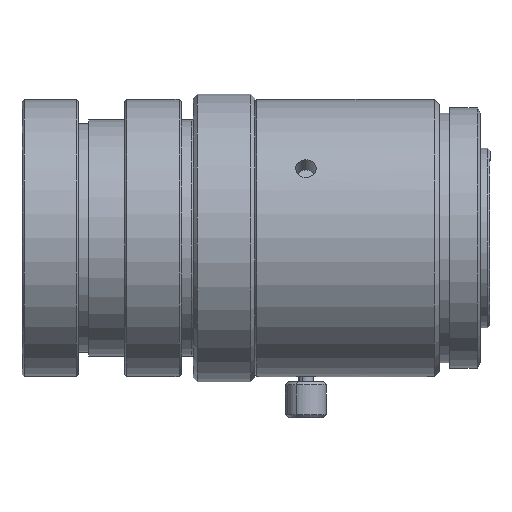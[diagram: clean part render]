
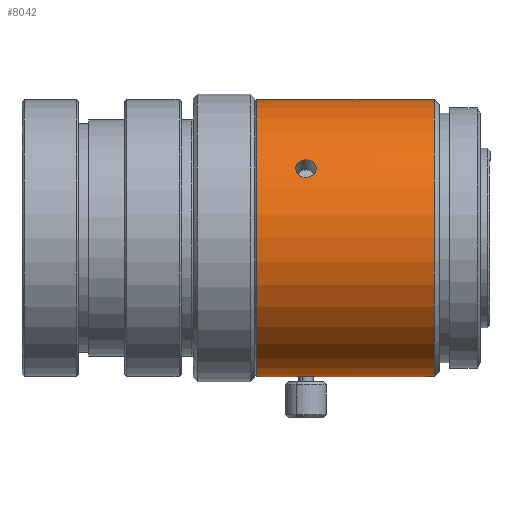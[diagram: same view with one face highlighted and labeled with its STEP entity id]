
A CAD part, top view. The second image highlights one B-rep face of the part: STEP entity #8042.
In plain terms, the highlighted cylindrical face has radius 13.5 mm (diameter 27 mm), a partial arc.
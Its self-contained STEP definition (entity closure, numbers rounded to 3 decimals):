
#186 = ORIENTED_EDGE ( 'NONE', *, *, #940, .F. ) ;
#220 = CARTESIAN_POINT ( 'NONE',  ( -30.788, 7.576, 11.174 ) ) ;
#412 = CARTESIAN_POINT ( 'NONE',  ( -18.026, 13.5, 0. ) ) ;
#436 = ORIENTED_EDGE ( 'NONE', *, *, #3309, .F. ) ;
#462 = FACE_OUTER_BOUND ( 'NONE', #1527, .T. ) ;
#520 = DIRECTION ( 'NONE',  ( 0., -1., 0. ) ) ;
#662 = EDGE_CURVE ( 'NONE', #2738, #859, #8899, .T. ) ;
#665 = ORIENTED_EDGE ( 'NONE', *, *, #9055, .T. ) ;
#757 = CARTESIAN_POINT ( 'NONE',  ( -31.526, 6.637, 11.757 ) ) ;
#810 = DIRECTION ( 'NONE',  ( 0., -1., 0. ) ) ;
#821 = DIRECTION ( 'NONE',  ( -1., 0., 0. ) ) ;
#859 = VERTEX_POINT ( 'NONE', #3760 ) ;
#864 = CARTESIAN_POINT ( 'NONE',  ( -30.657, 7.597, 11.159 ) ) ;
#940 = EDGE_CURVE ( 'NONE', #6323, #6672, #9807, .T. ) ;
#964 = DIRECTION ( 'NONE',  ( -1., 0., 0. ) ) ;
#1047 = EDGE_LOOP ( 'NONE', ( #665, #4319 ) ) ;
#1113 = CARTESIAN_POINT ( 'NONE',  ( -29.526, 6.865, 11.625 ) ) ;
#1512 = CARTESIAN_POINT ( 'NONE',  ( -31.4, -13.491, 0.503 ) ) ;
#1527 = EDGE_LOOP ( 'NONE', ( #9623, #6076, #1922, #436, #7463, #186 ) ) ;
#1573 = CARTESIAN_POINT ( 'NONE',  ( -49.693, 13.5, 0. ) ) ;
#1607 = CARTESIAN_POINT ( 'NONE',  ( -29.526, -13.5, 0.264 ) ) ;
#1654 = CARTESIAN_POINT ( 'NONE',  ( -31.327, 7.275, 11.373 ) ) ;
#1708 = CARTESIAN_POINT ( 'NONE',  ( -49.693, -13.5, 0. ) ) ;
#1800 = VECTOR ( 'NONE', #964, 1000. ) ;
#1802 = CARTESIAN_POINT ( 'NONE',  ( -30.023, 7.493, 11.23 ) ) ;
#1855 = CARTESIAN_POINT ( 'NONE',  ( -30.264, 7.576, 11.174 ) ) ;
#1922 = ORIENTED_EDGE ( 'NONE', *, *, #662, .F. ) ;
#1923 = VERTEX_POINT ( 'NONE', #3629 ) ;
#2114 = EDGE_CURVE ( 'NONE', #1923, #6805, #8637, .T. ) ;
#2343 = CARTESIAN_POINT ( 'NONE',  ( -31.325, 6.211, 11.987 ) ) ;
#2352 = CARTESIAN_POINT ( 'NONE',  ( -30.659, -13.463, 1. ) ) ;
#2362 = CARTESIAN_POINT ( 'NONE',  ( -30.526, 5.865, 12.159 ) ) ;
#2445 = CARTESIAN_POINT ( 'NONE',  ( -31.5, 6.522, 11.821 ) ) ;
#2494 = CARTESIAN_POINT ( 'NONE',  ( -31.526, 6.863, 11.626 ) ) ;
#2535 = DIRECTION ( 'NONE',  ( -1., 0., 0. ) ) ;
#2640 = CARTESIAN_POINT ( 'NONE',  ( -29.552, 6.523, 11.82 ) ) ;
#2680 = B_SPLINE_CURVE_WITH_KNOTS ( 'NONE', 3,
 ( #4685, #8337, #6037, #5394, #6989, #2343, #8442, #2445, #757, #2494, #9144, #6786, #1654, #8386, #4630, #220, #864, #3235 ),
 .UNSPECIFIED., .F., .F.,
 ( 4, 2, 2, 2, 2, 2, 2, 2, 4 ),
 ( 0., 0., 0.001, 0.001, 0.002, 0.002, 0.002, 0.003, 0.003 ),
 .UNSPECIFIED. ) ;
#2738 = VERTEX_POINT ( 'NONE', #7436 ) ;
#2939 = VECTOR ( 'NONE', #2535, 1000. ) ;
#3235 = CARTESIAN_POINT ( 'NONE',  ( -30.526, 7.597, 11.159 ) ) ;
#3309 = EDGE_CURVE ( 'NONE', #5500, #2738, #9480, .T. ) ;
#3330 = CARTESIAN_POINT ( 'NONE',  ( -30.526, 7.597, 11.159 ) ) ;
#3336 = CYLINDRICAL_SURFACE ( 'NONE', #3522, 13.5 ) ;
#3522 = AXIS2_PLACEMENT_3D ( 'NONE', #3528, #3578, #5158 ) ;
#3528 = CARTESIAN_POINT ( 'NONE',  ( -49.693, 0., 0. ) ) ;
#3578 = DIRECTION ( 'NONE',  ( -1., 0., 0. ) ) ;
#3629 = CARTESIAN_POINT ( 'NONE',  ( -30.526, 7.597, 11.159 ) ) ;
#3760 = CARTESIAN_POINT ( 'NONE',  ( -35.326, 13.5, 0. ) ) ;
#3772 = CARTESIAN_POINT ( 'NONE',  ( -30.265, -13.465, 0.974 ) ) ;
#3878 = CARTESIAN_POINT ( 'NONE',  ( -49.693, -13.5, 0. ) ) ;
#3887 = DIRECTION ( 'NONE',  ( -1., 0., 0. ) ) ;
#3975 = VECTOR ( 'NONE', #821, 1000. ) ;
#4051 = CARTESIAN_POINT ( 'NONE',  ( -18.026, -13.5, 0. ) ) ;
#4319 = ORIENTED_EDGE ( 'NONE', *, *, #2114, .T. ) ;
#4630 = CARTESIAN_POINT ( 'NONE',  ( -31.03, 7.493, 11.23 ) ) ;
#4644 = AXIS2_PLACEMENT_3D ( 'NONE', #8452, #4692, #810 ) ;
#4685 = CARTESIAN_POINT ( 'NONE',  ( -30.526, 5.865, 12.159 ) ) ;
#4692 = DIRECTION ( 'NONE',  ( -1., 0., 0. ) ) ;
#4831 = CARTESIAN_POINT ( 'NONE',  ( -29.552, 6.976, 11.558 ) ) ;
#4858 = CARTESIAN_POINT ( 'NONE',  ( -31.526, -13.5, 0. ) ) ;
#4878 = CARTESIAN_POINT ( 'NONE',  ( -29.653, 7.183, 11.431 ) ) ;
#4933 = EDGE_CURVE ( 'NONE', #6323, #8320, #7722, .T. ) ;
#5158 = DIRECTION ( 'NONE',  ( 0., -1., 0. ) ) ;
#5346 = CARTESIAN_POINT ( 'NONE',  ( -18.026, 0., 0. ) ) ;
#5351 = CARTESIAN_POINT ( 'NONE',  ( -30.789, -13.465, 0.974 ) ) ;
#5394 = CARTESIAN_POINT ( 'NONE',  ( -31.03, 5.979, 12.104 ) ) ;
#5500 = VERTEX_POINT ( 'NONE', #4858 ) ;
#5853 = EDGE_CURVE ( 'NONE', #8320, #859, #8404, .T. ) ;
#5868 = B_SPLINE_CURVE_WITH_KNOTS ( 'NONE', 3,
 ( #8393, #6752, #9052, #1512, #6152, #9199, #9773, #5351, #2352, #6703, #3772, #8346, #9004, #8451, #1607, #8229 ),
 .UNSPECIFIED., .F., .F.,
 ( 4, 2, 2, 2, 2, 2, 2, 4 ),
 ( 0.003, 0.004, 0.004, 0.004, 0.005, 0.005, 0.005, 0.006 ),
 .UNSPECIFIED. ) ;
#6037 = CARTESIAN_POINT ( 'NONE',  ( -30.788, 5.889, 12.148 ) ) ;
#6076 = ORIENTED_EDGE ( 'NONE', *, *, #5853, .T. ) ;
#6152 = CARTESIAN_POINT ( 'NONE',  ( -31.326, -13.486, 0.614 ) ) ;
#6323 = VERTEX_POINT ( 'NONE', #4051 ) ;
#6347 = CARTESIAN_POINT ( 'NONE',  ( -30.003, 5.964, 12.113 ) ) ;
#6672 = VERTEX_POINT ( 'NONE', #6911 ) ;
#6703 = CARTESIAN_POINT ( 'NONE',  ( -30.395, -13.463, 1. ) ) ;
#6752 = CARTESIAN_POINT ( 'NONE',  ( -31.526, -13.5, 0.131 ) ) ;
#6786 = CARTESIAN_POINT ( 'NONE',  ( -31.4, 7.182, 11.432 ) ) ;
#6805 = VERTEX_POINT ( 'NONE', #2362 ) ;
#6911 = CARTESIAN_POINT ( 'NONE',  ( -29.526, -13.5, 0. ) ) ;
#6976 = EDGE_CURVE ( 'NONE', #5500, #6672, #5868, .T. ) ;
#6989 = CARTESIAN_POINT ( 'NONE',  ( -31.141, 6.046, 12.071 ) ) ;
#7133 = CARTESIAN_POINT ( 'NONE',  ( -30.526, 5.865, 12.159 ) ) ;
#7185 = CARTESIAN_POINT ( 'NONE',  ( -29.652, 6.31, 11.935 ) ) ;
#7231 = FACE_BOUND ( 'NONE', #1047, .T. ) ;
#7436 = CARTESIAN_POINT ( 'NONE',  ( -35.326, -13.5, 0. ) ) ;
#7463 = ORIENTED_EDGE ( 'NONE', *, *, #6976, .T. ) ;
#7722 = CIRCLE ( 'NONE', #7869, 13.5 ) ;
#7835 = CARTESIAN_POINT ( 'NONE',  ( -29.726, 6.211, 11.987 ) ) ;
#7869 = AXIS2_PLACEMENT_3D ( 'NONE', #5346, #3887, #520 ) ;
#7917 = CARTESIAN_POINT ( 'NONE',  ( -30.395, 7.597, 11.159 ) ) ;
#8042 = ADVANCED_FACE ( 'NONE', ( #7231, #462 ), #3336, .T. ) ;
#8229 = CARTESIAN_POINT ( 'NONE',  ( -29.526, -13.5, 0. ) ) ;
#8320 = VERTEX_POINT ( 'NONE', #412 ) ;
#8337 = CARTESIAN_POINT ( 'NONE',  ( -30.658, 5.865, 12.159 ) ) ;
#8346 = CARTESIAN_POINT ( 'NONE',  ( -30.023, -13.472, 0.874 ) ) ;
#8386 = CARTESIAN_POINT ( 'NONE',  ( -31.14, 7.431, 11.271 ) ) ;
#8393 = CARTESIAN_POINT ( 'NONE',  ( -31.526, -13.5, 0. ) ) ;
#8404 = LINE ( 'NONE', #1573, #3975 ) ;
#8442 = CARTESIAN_POINT ( 'NONE',  ( -31.4, 6.31, 11.935 ) ) ;
#8451 = CARTESIAN_POINT ( 'NONE',  ( -29.635, -13.491, 0.523 ) ) ;
#8452 = CARTESIAN_POINT ( 'NONE',  ( -35.326, 0., 0. ) ) ;
#8595 = CARTESIAN_POINT ( 'NONE',  ( -29.727, 7.276, 11.372 ) ) ;
#8637 = B_SPLINE_CURVE_WITH_KNOTS ( 'NONE', 3,
 ( #3330, #7917, #1855, #1802, #9432, #8595, #4878, #4831, #1113, #9526, #2640, #7185, #7835, #6347, #9380, #7133 ),
 .UNSPECIFIED., .F., .F.,
 ( 4, 2, 2, 2, 2, 2, 2, 4 ),
 ( 0.003, 0.004, 0.004, 0.004, 0.005, 0.005, 0.005, 0.006 ),
 .UNSPECIFIED. ) ;
#8899 = CIRCLE ( 'NONE', #4644, 13.5 ) ;
#9004 = CARTESIAN_POINT ( 'NONE',  ( -29.912, -13.477, 0.8 ) ) ;
#9052 = CARTESIAN_POINT ( 'NONE',  ( -31.5, -13.498, 0.262 ) ) ;
#9055 = EDGE_CURVE ( 'NONE', #6805, #1923, #2680, .T. ) ;
#9144 = CARTESIAN_POINT ( 'NONE',  ( -31.5, 6.975, 11.559 ) ) ;
#9199 = CARTESIAN_POINT ( 'NONE',  ( -31.141, -13.477, 0.799 ) ) ;
#9380 = CARTESIAN_POINT ( 'NONE',  ( -30.262, 5.865, 12.159 ) ) ;
#9432 = CARTESIAN_POINT ( 'NONE',  ( -29.912, 7.431, 11.271 ) ) ;
#9480 = LINE ( 'NONE', #1708, #2939 ) ;
#9526 = CARTESIAN_POINT ( 'NONE',  ( -29.526, 6.636, 11.757 ) ) ;
#9623 = ORIENTED_EDGE ( 'NONE', *, *, #4933, .T. ) ;
#9773 = CARTESIAN_POINT ( 'NONE',  ( -31.031, -13.472, 0.873 ) ) ;
#9807 = LINE ( 'NONE', #3878, #1800 ) ;
